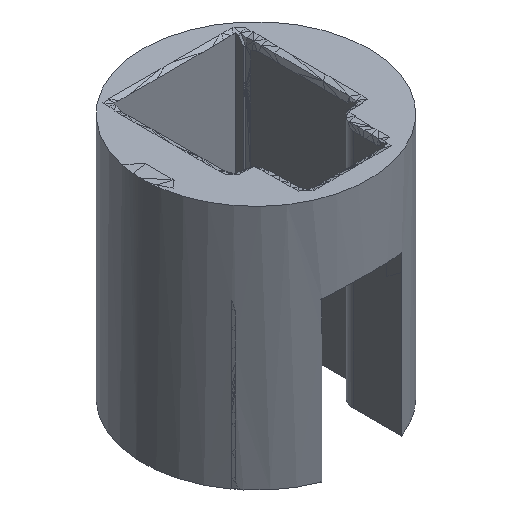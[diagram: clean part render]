
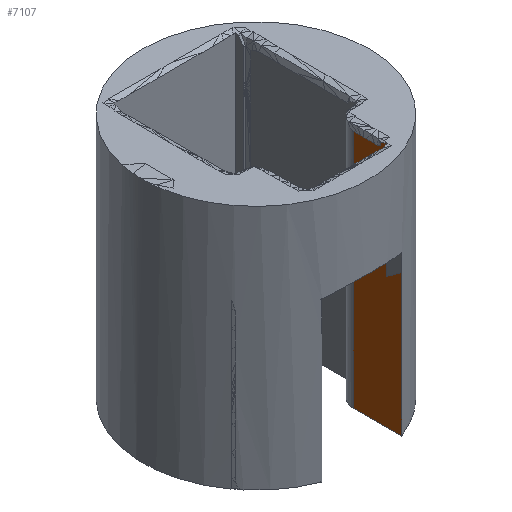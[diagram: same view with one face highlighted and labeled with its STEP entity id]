
A CAD part, isometric view. The second image highlights one B-rep face of the part: STEP entity #7107.
In plain terms, the highlighted planar face has unit normal (-1, 0, 0).
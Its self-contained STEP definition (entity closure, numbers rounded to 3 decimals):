
#129=FACE_OUTER_BOUND('',#587,.T.);
#587=EDGE_LOOP('',(#5083,#5084,#5085,#5086,#5087,#5088,#5089,#5090,#5091,
#5092,#5093,#5094,#5095,#5096,#5097,#5098));
#1004=LINE('',#10035,#1977);
#1051=LINE('',#10192,#2024);
#1293=LINE('',#10697,#2266);
#1297=LINE('',#10704,#2270);
#1301=LINE('',#10712,#2274);
#1330=LINE('',#10778,#2303);
#1383=LINE('',#10884,#2356);
#1384=LINE('',#10886,#2357);
#1385=LINE('',#10888,#2358);
#1386=LINE('',#10890,#2359);
#1387=LINE('',#10892,#2360);
#1388=LINE('',#10894,#2361);
#1389=LINE('',#10896,#2362);
#1390=LINE('',#10898,#2363);
#1391=LINE('',#10900,#2364);
#1392=LINE('',#10901,#2365);
#1977=VECTOR('',#8046,1.);
#2024=VECTOR('',#8145,10.);
#2266=VECTOR('',#8505,1.);
#2270=VECTOR('',#8511,1.);
#2274=VECTOR('',#8517,1.);
#2303=VECTOR('',#8578,1.);
#2356=VECTOR('',#8635,1.);
#2357=VECTOR('',#8636,1.);
#2358=VECTOR('',#8637,1.);
#2359=VECTOR('',#8638,1.);
#2360=VECTOR('',#8639,1.);
#2361=VECTOR('',#8640,1.);
#2362=VECTOR('',#8641,1.);
#2363=VECTOR('',#8642,1.);
#2364=VECTOR('',#8643,1.);
#2365=VECTOR('',#8644,1.);
#2948=VERTEX_POINT('',#10032);
#2949=VERTEX_POINT('',#10034);
#3021=VERTEX_POINT('',#10191);
#3224=VERTEX_POINT('',#10694);
#3225=VERTEX_POINT('',#10696);
#3227=VERTEX_POINT('',#10702);
#3230=VERTEX_POINT('',#10710);
#3251=VERTEX_POINT('',#10776);
#3303=VERTEX_POINT('',#10885);
#3304=VERTEX_POINT('',#10887);
#3305=VERTEX_POINT('',#10889);
#3306=VERTEX_POINT('',#10891);
#3307=VERTEX_POINT('',#10893);
#3308=VERTEX_POINT('',#10895);
#3309=VERTEX_POINT('',#10897);
#3310=VERTEX_POINT('',#10899);
#3524=EDGE_CURVE('',#2948,#2949,#1004,.T.);
#3600=EDGE_CURVE('',#3021,#2949,#1051,.T.);
#3852=EDGE_CURVE('',#3224,#3225,#1293,.T.);
#3856=EDGE_CURVE('',#3227,#3224,#1297,.T.);
#3860=EDGE_CURVE('',#3230,#3227,#1301,.T.);
#3893=EDGE_CURVE('',#3251,#2948,#1330,.T.);
#3946=EDGE_CURVE('',#3225,#3251,#1383,.T.);
#3947=EDGE_CURVE('',#3303,#3230,#1384,.T.);
#3948=EDGE_CURVE('',#3304,#3303,#1385,.T.);
#3949=EDGE_CURVE('',#3305,#3304,#1386,.T.);
#3950=EDGE_CURVE('',#3306,#3305,#1387,.T.);
#3951=EDGE_CURVE('',#3307,#3306,#1388,.T.);
#3952=EDGE_CURVE('',#3308,#3307,#1389,.T.);
#3953=EDGE_CURVE('',#3309,#3308,#1390,.T.);
#3954=EDGE_CURVE('',#3310,#3309,#1391,.T.);
#3955=EDGE_CURVE('',#3310,#3021,#1392,.T.);
#5083=ORIENTED_EDGE('',*,*,#3600,.T.);
#5084=ORIENTED_EDGE('',*,*,#3524,.F.);
#5085=ORIENTED_EDGE('',*,*,#3893,.F.);
#5086=ORIENTED_EDGE('',*,*,#3946,.F.);
#5087=ORIENTED_EDGE('',*,*,#3852,.F.);
#5088=ORIENTED_EDGE('',*,*,#3856,.F.);
#5089=ORIENTED_EDGE('',*,*,#3860,.F.);
#5090=ORIENTED_EDGE('',*,*,#3947,.F.);
#5091=ORIENTED_EDGE('',*,*,#3948,.F.);
#5092=ORIENTED_EDGE('',*,*,#3949,.F.);
#5093=ORIENTED_EDGE('',*,*,#3950,.F.);
#5094=ORIENTED_EDGE('',*,*,#3951,.F.);
#5095=ORIENTED_EDGE('',*,*,#3952,.F.);
#5096=ORIENTED_EDGE('',*,*,#3953,.F.);
#5097=ORIENTED_EDGE('',*,*,#3954,.F.);
#5098=ORIENTED_EDGE('',*,*,#3955,.T.);
#6651=PLANE('',#7620);
#7107=ADVANCED_FACE('',(#129),#6651,.F.);
#7620=AXIS2_PLACEMENT_3D('',#10883,#8633,#8634);
#8046=DIRECTION('',(0.,0.,-1.));
#8145=DIRECTION('',(0.,-1.,0.));
#8505=DIRECTION('',(0.,-1.,0.006));
#8511=DIRECTION('',(0.,-0.642,0.767));
#8517=DIRECTION('',(0.,-0.986,0.167));
#8578=DIRECTION('',(0.,-0.806,0.592));
#8633=DIRECTION('center_axis',(1.,0.,0.));
#8634=DIRECTION('ref_axis',(0.,-1.,0.));
#8635=DIRECTION('',(0.,0.,-1.));
#8636=DIRECTION('',(0.,0.058,0.998));
#8637=DIRECTION('',(0.,-0.944,0.329));
#8638=DIRECTION('',(0.,-1.,0.));
#8639=DIRECTION('',(0.,-1.,0.));
#8640=DIRECTION('',(0.,-1.,0.003));
#8641=DIRECTION('',(0.,-1.,0.009));
#8642=DIRECTION('',(0.,-1.,0.));
#8643=DIRECTION('',(0.,-1.,0.));
#8644=DIRECTION('',(0.,0.,-1.));
#10032=CARTESIAN_POINT('',(-1426.02,178.967,-2089.358));
#10034=CARTESIAN_POINT('',(-1426.02,178.967,-2107.137));
#10035=CARTESIAN_POINT('',(-1426.02,178.967,-2098.101));
#10191=CARTESIAN_POINT('',(-1426.02,185.027,-2107.137));
#10192=CARTESIAN_POINT('',(-1426.02,188.389,-2107.137));
#10694=CARTESIAN_POINT('',(-1426.02,181.045,-2076.297));
#10696=CARTESIAN_POINT('',(-1426.02,180.82,-2076.295));
#10697=CARTESIAN_POINT('',(-1426.02,182.399,-2076.305));
#10702=CARTESIAN_POINT('',(-1426.02,181.099,-2076.361));
#10704=CARTESIAN_POINT('',(-1426.02,130.869,-2016.321));
#10710=CARTESIAN_POINT('',(-1426.02,181.618,-2076.449));
#10712=CARTESIAN_POINT('',(-1426.02,165.917,-2073.791));
#10776=CARTESIAN_POINT('',(-1426.02,180.82,-2090.719));
#10778=CARTESIAN_POINT('',(-1426.02,180.82,-2090.719));
#10883=CARTESIAN_POINT('Origin',(-1426.02,185.027,-1868.822));
#10884=CARTESIAN_POINT('',(-1426.02,180.82,-1868.822));
#10885=CARTESIAN_POINT('',(-1426.02,181.593,-2076.88));
#10886=CARTESIAN_POINT('',(-1426.02,187.618,-1972.92));
#10887=CARTESIAN_POINT('',(-1426.02,182.022,-2077.03));
#10888=CARTESIAN_POINT('',(-1426.02,150.671,-2066.109));
#10889=CARTESIAN_POINT('',(-1426.02,182.378,-2077.03));
#10890=CARTESIAN_POINT('',(-1426.02,183.488,-2077.03));
#10891=CARTESIAN_POINT('',(-1426.02,183.372,-2077.03));
#10892=CARTESIAN_POINT('',(-1426.02,183.525,-2077.03));
#10893=CARTESIAN_POINT('',(-1426.02,183.727,-2077.031));
#10894=CARTESIAN_POINT('',(-1426.02,183.636,-2077.031));
#10895=CARTESIAN_POINT('',(-1426.02,184.08,-2077.034));
#10896=CARTESIAN_POINT('',(-1426.02,183.551,-2077.03));
#10897=CARTESIAN_POINT('',(-1426.02,184.433,-2077.034));
#10898=CARTESIAN_POINT('',(-1426.02,184.91,-2077.034));
#10899=CARTESIAN_POINT('',(-1426.02,185.027,-2077.034));
#10900=CARTESIAN_POINT('',(-1426.02,184.333,-2077.034));
#10901=CARTESIAN_POINT('',(-1426.02,185.027,-1868.822));
